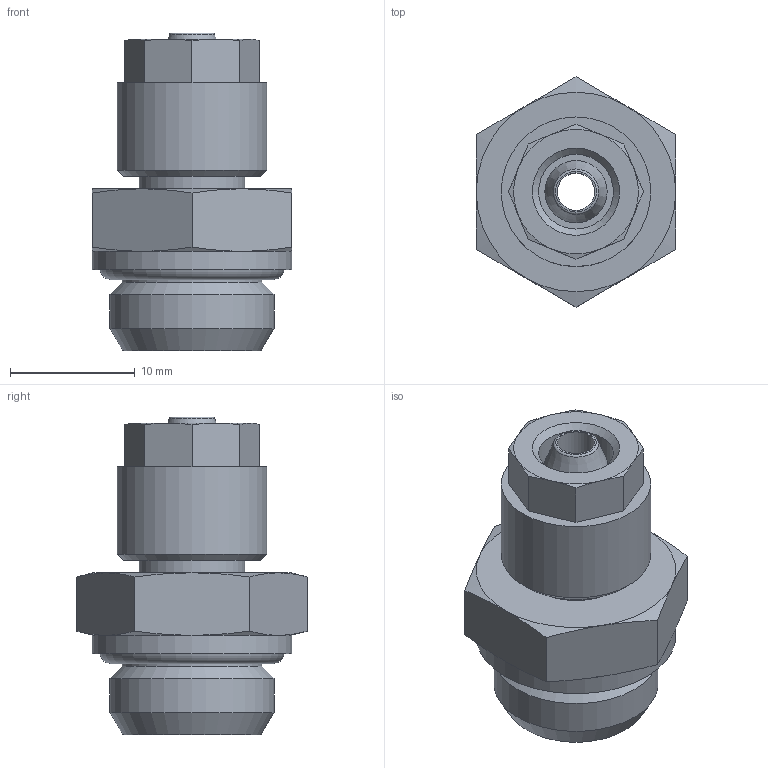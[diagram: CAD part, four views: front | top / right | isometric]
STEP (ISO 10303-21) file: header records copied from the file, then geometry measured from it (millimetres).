
FILE_DESCRIPTION(/* description */ (''),/* implementation_level */ '2;1');
FILE_NAME(/* name */ '10210_301Z_64_14_09.09.15',/* time_stamp */ '2015-09-09T11:24:43+02:00',/* author */ (''),/* organization */ (''),/* preprocessor_version */ 'ST-DEVELOPER v14',/* originating_system */ 'HiCAD 2013 1802.4 Build 509',/* authorisation */ '');
FILE_SCHEMA (('AUTOMOTIVE_DESIGN { 1 0 10303 214 1 1 1 1 }'));
Length unit declared in the file: millimetre
Products named in the file (4): Root; R10210; 17005; OR 11.11X1.78
Assembly tree (3 placements, depth 2):
  Root
    R10210
    17005
    OR 11.11X1.78
Bounding box: 16 x 18.48 x 25.5 mm (x, y, z)
Volume: 2771.4 mm3; surface area: 2814.1 mm2
Topology: 3 solids, 3 shells, 72 faces, 161 edges, 99 vertices
Faces by surface type: cone 32, plane 24, cylinder 11, torus 5
Full cylindrical faces by diameter (mm): 3 x1, 4.5 x1, 6 x1, 8 x1, 8.5 x1, 8.773 x1, 10 x1, 11.2 x1, 12 x1, 13.157 x1, 16 x1
Entity records: 2997 total; most frequent: DIRECTION 368, CARTESIAN_POINT 278, PRESENTATION_STYLE_ASSIGNMENT 237, COLOUR_RGB 236, DRAUGHTING_PRE_DEFINED_CURVE_FONT 234, CURVE_STYLE 234, OVER_RIDING_STYLED_ITEM 234, ORIENTED_EDGE 234
